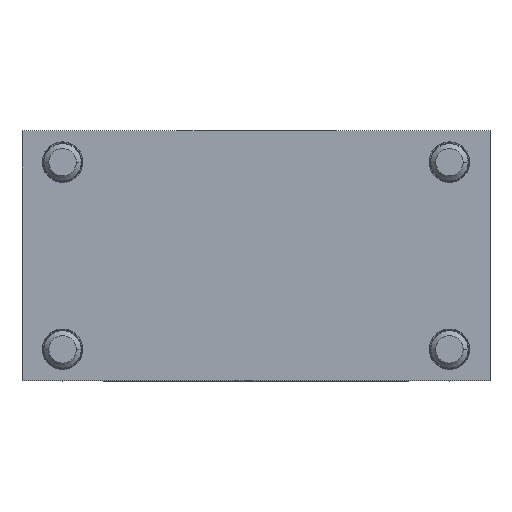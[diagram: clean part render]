
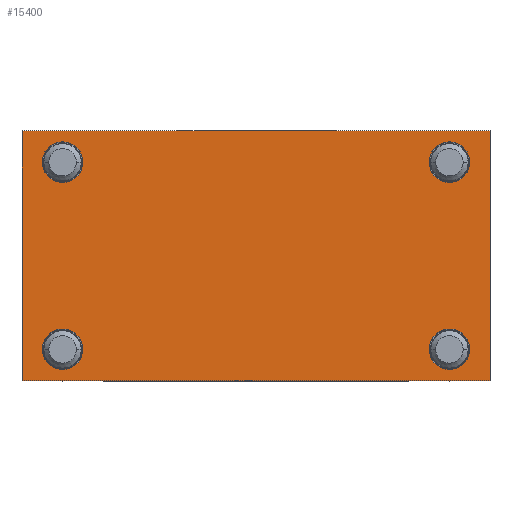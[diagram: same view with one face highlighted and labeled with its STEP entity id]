
A CAD part, top view. The second image highlights one B-rep face of the part: STEP entity #15400.
In plain terms, the highlighted planar face has unit normal (0, 0, 1).
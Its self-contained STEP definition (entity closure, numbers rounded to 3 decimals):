
#781 = CARTESIAN_POINT ( 'NONE',  ( 25.837, -1.556, 26.5 ) ) ;
#811 = DIRECTION ( 'NONE',  ( -1., 0., 0. ) ) ;
#1228 = DIRECTION ( 'NONE',  ( -1., 0., 0. ) ) ;
#1651 = VERTEX_POINT ( 'NONE', #6491 ) ;
#2094 = DIRECTION ( 'NONE',  ( 0., 0., 1. ) ) ;
#2394 = FACE_OUTER_BOUND ( 'NONE', #23993, .T. ) ;
#2839 = CIRCLE ( 'NONE', #35049, 3.25 ) ;
#2966 = CARTESIAN_POINT ( 'NONE',  ( -42.663, 3.444, 26.5 ) ) ;
#3167 = CARTESIAN_POINT ( 'NONE',  ( -49.163, -1.556, 26.5 ) ) ;
#3357 = EDGE_CURVE ( 'NONE', #31973, #32229, #21083, .T. ) ;
#3508 = DIRECTION ( 'NONE',  ( -1., 0., 0. ) ) ;
#3735 = ORIENTED_EDGE ( 'NONE', *, *, #6313, .F. ) ;
#3766 = EDGE_LOOP ( 'NONE', ( #34653, #7503 ) ) ;
#4156 = DIRECTION ( 'NONE',  ( 0., 0., 1. ) ) ;
#4319 = AXIS2_PLACEMENT_3D ( 'NONE', #8862, #27760, #11610 ) ;
#4506 = CARTESIAN_POINT ( 'NONE',  ( 25.837, -1.556, 26.5 ) ) ;
#4651 = EDGE_CURVE ( 'NONE', #18931, #6476, #2839, .T. ) ;
#4743 = VECTOR ( 'NONE', #30396, 1000. ) ;
#4889 = VERTEX_POINT ( 'NONE', #5187 ) ;
#4892 = VERTEX_POINT ( 'NONE', #10811 ) ;
#4948 = ORIENTED_EDGE ( 'NONE', *, *, #23085, .F. ) ;
#5187 = CARTESIAN_POINT ( 'NONE',  ( 22.587, 33.444, 26.5 ) ) ;
#5659 = DIRECTION ( 'NONE',  ( -1., 0., 0. ) ) ;
#5882 = EDGE_CURVE ( 'NONE', #26660, #28220, #34022, .T. ) ;
#6060 = DIRECTION ( 'NONE',  ( 0., 0., 1. ) ) ;
#6086 = PLANE ( 'NONE',  #22720 ) ;
#6313 = EDGE_CURVE ( 'NONE', #29060, #4892, #8926, .T. ) ;
#6476 = VERTEX_POINT ( 'NONE', #31356 ) ;
#6491 = CARTESIAN_POINT ( 'NONE',  ( 25.837, 38.444, 26.5 ) ) ;
#6521 = CIRCLE ( 'NONE', #12305, 3.25 ) ;
#6529 = CARTESIAN_POINT ( 'NONE',  ( 16.087, 3.444, 26.5 ) ) ;
#6716 = VECTOR ( 'NONE', #811, 1000. ) ;
#7305 = DIRECTION ( 'NONE',  ( 0., 0., 1. ) ) ;
#7503 = ORIENTED_EDGE ( 'NONE', *, *, #15361, .F. ) ;
#7916 = EDGE_LOOP ( 'NONE', ( #10117, #3735 ) ) ;
#8246 = DIRECTION ( 'NONE',  ( 0., 1., 0. ) ) ;
#8862 = CARTESIAN_POINT ( 'NONE',  ( -42.663, 3.444, 26.5 ) ) ;
#8926 = CIRCLE ( 'NONE', #4319, 3.25 ) ;
#9243 = ORIENTED_EDGE ( 'NONE', *, *, #18006, .F. ) ;
#9626 = FACE_BOUND ( 'NONE', #7916, .T. ) ;
#9768 = EDGE_CURVE ( 'NONE', #32229, #31901, #31427, .T. ) ;
#9840 = VECTOR ( 'NONE', #8246, 1000. ) ;
#9873 = CIRCLE ( 'NONE', #30676, 3.25 ) ;
#10117 = ORIENTED_EDGE ( 'NONE', *, *, #20790, .F. ) ;
#10478 = EDGE_LOOP ( 'NONE', ( #4948, #13024 ) ) ;
#10680 = EDGE_LOOP ( 'NONE', ( #21870, #9243 ) ) ;
#10811 = CARTESIAN_POINT ( 'NONE',  ( -45.913, 3.444, 26.5 ) ) ;
#11246 = DIRECTION ( 'NONE',  ( 0., 0., 1. ) ) ;
#11610 = DIRECTION ( 'NONE',  ( -1., 0., 0. ) ) ;
#12305 = AXIS2_PLACEMENT_3D ( 'NONE', #22243, #6060, #25024 ) ;
#12440 = LINE ( 'NONE', #24919, #18741 ) ;
#13024 = ORIENTED_EDGE ( 'NONE', *, *, #32216, .F. ) ;
#15361 = EDGE_CURVE ( 'NONE', #6476, #18931, #34627, .T. ) ;
#15400 = ADVANCED_FACE ( 'NONE', ( #16772, #31207, #32062, #9626, #2394 ), #6086, .F. ) ;
#16772 = FACE_BOUND ( 'NONE', #10478, .T. ) ;
#17415 = DIRECTION ( 'NONE',  ( 0., 0., 1. ) ) ;
#17909 = AXIS2_PLACEMENT_3D ( 'NONE', #23514, #7305, #26252 ) ;
#18006 = EDGE_CURVE ( 'NONE', #28220, #26660, #31137, .T. ) ;
#18279 = CARTESIAN_POINT ( 'NONE',  ( 19.337, 3.444, 26.5 ) ) ;
#18346 = EDGE_CURVE ( 'NONE', #31901, #1651, #12440, .T. ) ;
#18741 = VECTOR ( 'NONE', #27606, 1000. ) ;
#18918 = ORIENTED_EDGE ( 'NONE', *, *, #32250, .F. ) ;
#18931 = VERTEX_POINT ( 'NONE', #6529 ) ;
#19669 = DIRECTION ( 'NONE',  ( 0., 0., -1. ) ) ;
#20328 = CARTESIAN_POINT ( 'NONE',  ( -42.663, 33.444, 26.5 ) ) ;
#20438 = CARTESIAN_POINT ( 'NONE',  ( -49.163, 38.444, 26.5 ) ) ;
#20621 = ORIENTED_EDGE ( 'NONE', *, *, #9768, .F. ) ;
#20790 = EDGE_CURVE ( 'NONE', #4892, #29060, #28742, .T. ) ;
#20981 = DIRECTION ( 'NONE',  ( -1., 0., 0. ) ) ;
#21083 = LINE ( 'NONE', #25074, #6716 ) ;
#21694 = CARTESIAN_POINT ( 'NONE',  ( -49.163, 18.444, 26.5 ) ) ;
#21853 = DIRECTION ( 'NONE',  ( 0., 0., 1. ) ) ;
#21870 = ORIENTED_EDGE ( 'NONE', *, *, #5882, .F. ) ;
#22243 = CARTESIAN_POINT ( 'NONE',  ( 19.337, 33.444, 26.5 ) ) ;
#22720 = AXIS2_PLACEMENT_3D ( 'NONE', #781, #19669, #3508 ) ;
#23053 = DIRECTION ( 'NONE',  ( -1., 0., 0. ) ) ;
#23085 = EDGE_CURVE ( 'NONE', #32420, #4889, #6521, .T. ) ;
#23514 = CARTESIAN_POINT ( 'NONE',  ( -42.663, 33.444, 26.5 ) ) ;
#23993 = EDGE_LOOP ( 'NONE', ( #18918, #33398, #20621, #30416 ) ) ;
#24666 = CARTESIAN_POINT ( 'NONE',  ( -45.913, 33.444, 26.5 ) ) ;
#24703 = CARTESIAN_POINT ( 'NONE',  ( 25.837, 18.444, 26.5 ) ) ;
#24919 = CARTESIAN_POINT ( 'NONE',  ( -11.663, 38.444, 26.5 ) ) ;
#25024 = DIRECTION ( 'NONE',  ( -1., 0., 0. ) ) ;
#25074 = CARTESIAN_POINT ( 'NONE',  ( -11.663, -1.556, 26.5 ) ) ;
#26252 = DIRECTION ( 'NONE',  ( -1., 0., 0. ) ) ;
#26660 = VERTEX_POINT ( 'NONE', #24666 ) ;
#26935 = CARTESIAN_POINT ( 'NONE',  ( -39.413, 3.444, 26.5 ) ) ;
#27404 = CARTESIAN_POINT ( 'NONE',  ( 19.337, 33.444, 26.5 ) ) ;
#27606 = DIRECTION ( 'NONE',  ( 1., 0., 0. ) ) ;
#27760 = DIRECTION ( 'NONE',  ( 0., 0., 1. ) ) ;
#28220 = VERTEX_POINT ( 'NONE', #30610 ) ;
#28742 = CIRCLE ( 'NONE', #29855, 3.25 ) ;
#28887 = LINE ( 'NONE', #24703, #4743 ) ;
#28964 = CARTESIAN_POINT ( 'NONE',  ( 16.087, 33.444, 26.5 ) ) ;
#29060 = VERTEX_POINT ( 'NONE', #26935 ) ;
#29855 = AXIS2_PLACEMENT_3D ( 'NONE', #2966, #21853, #5659 ) ;
#30104 = AXIS2_PLACEMENT_3D ( 'NONE', #20328, #4156, #23053 ) ;
#30155 = DIRECTION ( 'NONE',  ( -1., 0., 0. ) ) ;
#30396 = DIRECTION ( 'NONE',  ( 0., -1., 0. ) ) ;
#30416 = ORIENTED_EDGE ( 'NONE', *, *, #3357, .F. ) ;
#30610 = CARTESIAN_POINT ( 'NONE',  ( -39.413, 33.444, 26.5 ) ) ;
#30676 = AXIS2_PLACEMENT_3D ( 'NONE', #27404, #11246, #30155 ) ;
#30695 = AXIS2_PLACEMENT_3D ( 'NONE', #18279, #2094, #20981 ) ;
#31137 = CIRCLE ( 'NONE', #17909, 3.25 ) ;
#31207 = FACE_BOUND ( 'NONE', #3766, .T. ) ;
#31356 = CARTESIAN_POINT ( 'NONE',  ( 22.587, 3.444, 26.5 ) ) ;
#31427 = LINE ( 'NONE', #21694, #9840 ) ;
#31901 = VERTEX_POINT ( 'NONE', #20438 ) ;
#31973 = VERTEX_POINT ( 'NONE', #4506 ) ;
#32062 = FACE_BOUND ( 'NONE', #10680, .T. ) ;
#32216 = EDGE_CURVE ( 'NONE', #4889, #32420, #9873, .T. ) ;
#32229 = VERTEX_POINT ( 'NONE', #3167 ) ;
#32250 = EDGE_CURVE ( 'NONE', #1651, #31973, #28887, .T. ) ;
#32420 = VERTEX_POINT ( 'NONE', #28964 ) ;
#33398 = ORIENTED_EDGE ( 'NONE', *, *, #18346, .F. ) ;
#33674 = CARTESIAN_POINT ( 'NONE',  ( 19.337, 3.444, 26.5 ) ) ;
#34022 = CIRCLE ( 'NONE', #30104, 3.25 ) ;
#34627 = CIRCLE ( 'NONE', #30695, 3.25 ) ;
#34653 = ORIENTED_EDGE ( 'NONE', *, *, #4651, .F. ) ;
#35049 = AXIS2_PLACEMENT_3D ( 'NONE', #33674, #17415, #1228 ) ;
